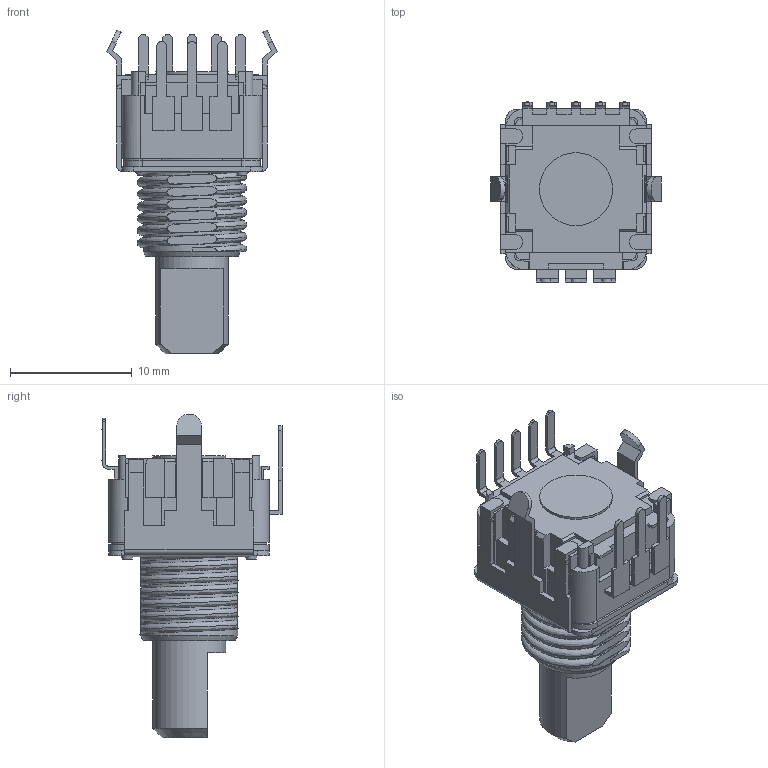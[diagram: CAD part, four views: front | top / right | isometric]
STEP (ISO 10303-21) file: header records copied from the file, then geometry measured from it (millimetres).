
FILE_DESCRIPTION((''),'2;1');
FILE_NAME('\\Forward-ks-ad\開發專區\高雄廠設計課\設計機種開發作業\量產機種專案\絕緣軸\RD12S\RD12S-新版\3D\K121S1V-F31-RGB.stp','2019-05-07T17:12:25',('kak13012'),(''),'Autodesk Inventor 2010','Autodesk Inventor 2010','');
FILE_SCHEMA(('AUTOMOTIVE_DESIGN { 1 0 10303 214 1 1 1 1 }'));
Length unit declared in the file: millimetre
Products named in the file (1): K121S1V-F31-RGB
Bounding box: 14 x 14.83 x 26.64 mm (x, y, z)
Volume: 1442.7 mm3; surface area: 2527.2 mm2
Topology: 1 solids, 1 shells, 643 faces, 1688 edges, 1077 vertices
Faces by surface type: plane 447, cylinder 131, bspline 54, cone 9, torus 2
Full cylindrical faces by diameter (mm): 0.5 x3, 0.8 x1, 1 x2, 1.1 x4, 1.2 x5, 1.3 x6, 3.76 x1, 4.5 x1, 5.5 x1, 6 x2, 6.1 x2, 6.12 x1, 7 x1, 8.6 x1
Entity records: 23042 total; most frequent: CARTESIAN_POINT 6844, ORIENTED_EDGE 3294, DIRECTION 3084, EDGE_CURVE 1647, VECTOR 1240, LINE 1240, VERTEX_POINT 1075, AXIS2_PLACEMENT_3D 922
